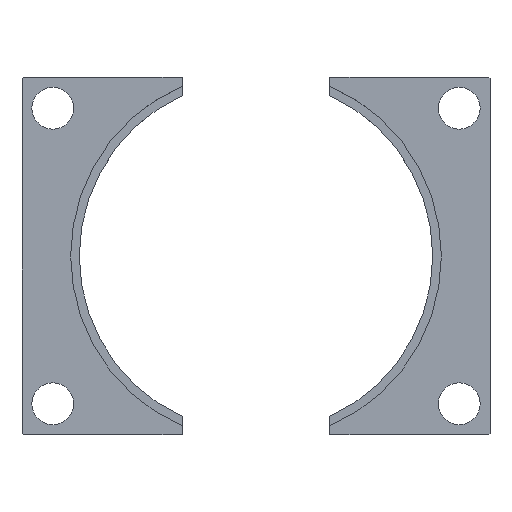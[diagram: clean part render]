
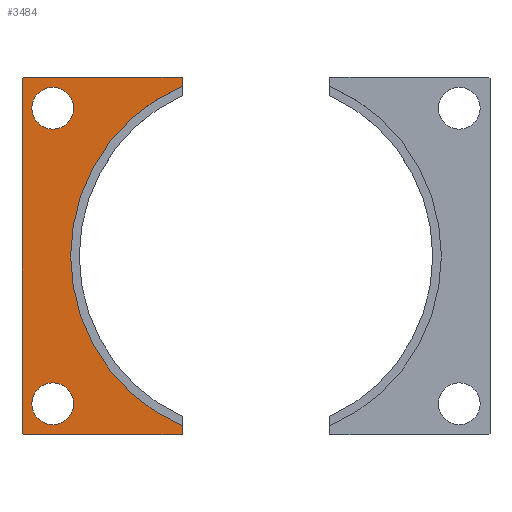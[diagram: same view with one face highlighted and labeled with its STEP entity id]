
A CAD part, top view. The second image highlights one B-rep face of the part: STEP entity #3484.
In plain terms, the highlighted planar face has unit normal (0, 0, 1).
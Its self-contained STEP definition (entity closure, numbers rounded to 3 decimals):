
#28=CIRCLE('',#3618,75.25);
#29=CIRCLE('',#3619,8.5);
#30=CIRCLE('',#3620,8.5);
#57=FACE_BOUND('',#529,.T.);
#58=FACE_BOUND('',#530,.T.);
#146=PLANE('',#3617);
#325=FACE_OUTER_BOUND('',#528,.T.);
#528=EDGE_LOOP('',(#3111,#3112,#3113,#3114,#3115,#3116,#3117,#3118));
#529=EDGE_LOOP('',(#3119));
#530=EDGE_LOOP('',(#3120));
#846=LINE('',#6165,#1181);
#849=LINE('',#6170,#1184);
#851=LINE('',#6174,#1186);
#852=LINE('',#6176,#1187);
#853=LINE('',#6180,#1188);
#854=LINE('',#6182,#1189);
#855=LINE('',#6183,#1190);
#1181=VECTOR('',#4114,10.);
#1184=VECTOR('',#4119,10.);
#1186=VECTOR('',#4123,10.);
#1187=VECTOR('',#4124,10.);
#1188=VECTOR('',#4127,10.);
#1189=VECTOR('',#4128,10.);
#1190=VECTOR('',#4129,10.);
#1686=VERTEX_POINT('',#6163);
#1687=VERTEX_POINT('',#6164);
#1688=VERTEX_POINT('',#6169);
#1689=VERTEX_POINT('',#6173);
#1690=VERTEX_POINT('',#6175);
#1691=VERTEX_POINT('',#6177);
#1692=VERTEX_POINT('',#6179);
#1693=VERTEX_POINT('',#6181);
#1694=VERTEX_POINT('',#6184);
#1695=VERTEX_POINT('',#6186);
#2169=EDGE_CURVE('',#1686,#1687,#846,.T.);
#2172=EDGE_CURVE('',#1687,#1688,#849,.T.);
#2174=EDGE_CURVE('',#1689,#1686,#851,.T.);
#2175=EDGE_CURVE('',#1690,#1689,#852,.T.);
#2176=EDGE_CURVE('',#1690,#1691,#28,.T.);
#2177=EDGE_CURVE('',#1692,#1691,#853,.T.);
#2178=EDGE_CURVE('',#1693,#1692,#854,.T.);
#2179=EDGE_CURVE('',#1688,#1693,#855,.T.);
#2180=EDGE_CURVE('',#1694,#1694,#29,.T.);
#2181=EDGE_CURVE('',#1695,#1695,#30,.T.);
#3111=ORIENTED_EDGE('',*,*,#2169,.F.);
#3112=ORIENTED_EDGE('',*,*,#2174,.F.);
#3113=ORIENTED_EDGE('',*,*,#2175,.F.);
#3114=ORIENTED_EDGE('',*,*,#2176,.T.);
#3115=ORIENTED_EDGE('',*,*,#2177,.F.);
#3116=ORIENTED_EDGE('',*,*,#2178,.F.);
#3117=ORIENTED_EDGE('',*,*,#2179,.F.);
#3118=ORIENTED_EDGE('',*,*,#2172,.F.);
#3119=ORIENTED_EDGE('',*,*,#2180,.T.);
#3120=ORIENTED_EDGE('',*,*,#2181,.T.);
#3484=ADVANCED_FACE('',(#325,#57,#58),#146,.T.);
#3617=AXIS2_PLACEMENT_3D('',#6172,#4121,#4122);
#3618=AXIS2_PLACEMENT_3D('',#6178,#4125,#4126);
#3619=AXIS2_PLACEMENT_3D('',#6185,#4130,#4131);
#3620=AXIS2_PLACEMENT_3D('',#6187,#4132,#4133);
#4114=DIRECTION('',(-0.707,0.707,0.));
#4119=DIRECTION('',(0.,1.,0.));
#4121=DIRECTION('center_axis',(0.,0.,1.));
#4122=DIRECTION('ref_axis',(1.,0.,0.));
#4123=DIRECTION('',(-1.,0.,0.));
#4124=DIRECTION('',(0.,-1.,0.));
#4125=DIRECTION('center_axis',(0.,0.,-1.));
#4126=DIRECTION('ref_axis',(-1.,0.,0.));
#4127=DIRECTION('',(0.,-1.,0.));
#4128=DIRECTION('',(1.,0.,0.));
#4129=DIRECTION('',(0.707,0.707,0.));
#4130=DIRECTION('center_axis',(0.,0.,-1.));
#4131=DIRECTION('ref_axis',(-1.,0.,0.));
#4132=DIRECTION('center_axis',(0.,0.,-1.));
#4133=DIRECTION('ref_axis',(-1.,0.,0.));
#6163=CARTESIAN_POINT('',(-109.129,-70.924,12.));
#6164=CARTESIAN_POINT('',(-109.629,-70.424,12.));
#6165=CARTESIAN_POINT('',(-120.995,-59.058,12.));
#6169=CARTESIAN_POINT('',(-109.629,73.576,12.));
#6170=CARTESIAN_POINT('',(-109.629,74.076,12.));
#6172=CARTESIAN_POINT('Origin',(-83.593,1.576,12.));
#6173=CARTESIAN_POINT('',(-44.629,-70.924,12.));
#6174=CARTESIAN_POINT('',(-109.629,-70.924,12.));
#6175=CARTESIAN_POINT('',(-44.629,-67.435,12.));
#6176=CARTESIAN_POINT('',(-44.629,-70.924,12.));
#6177=CARTESIAN_POINT('',(-44.629,70.588,12.));
#6178=CARTESIAN_POINT('Origin',(-14.629,1.576,12.));
#6179=CARTESIAN_POINT('',(-44.629,74.076,12.));
#6180=CARTESIAN_POINT('',(-44.629,66.753,12.));
#6181=CARTESIAN_POINT('',(-109.129,74.076,12.));
#6182=CARTESIAN_POINT('',(-44.629,74.076,12.));
#6183=CARTESIAN_POINT('',(-120.995,62.21,12.));
#6184=CARTESIAN_POINT('',(-88.629,-58.424,12.));
#6185=CARTESIAN_POINT('Origin',(-97.129,-58.424,12.));
#6186=CARTESIAN_POINT('',(-88.629,61.576,12.));
#6187=CARTESIAN_POINT('Origin',(-97.129,61.576,12.));
